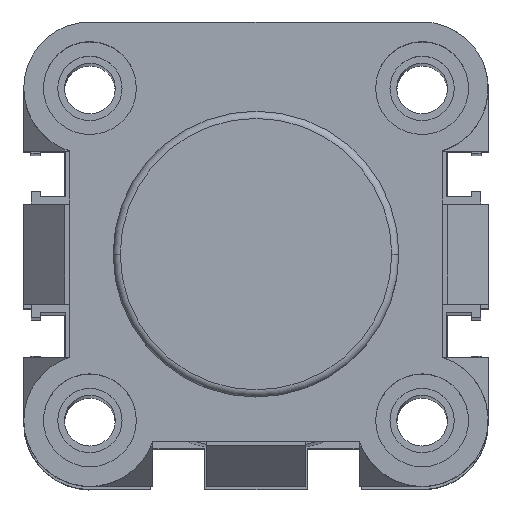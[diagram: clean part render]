
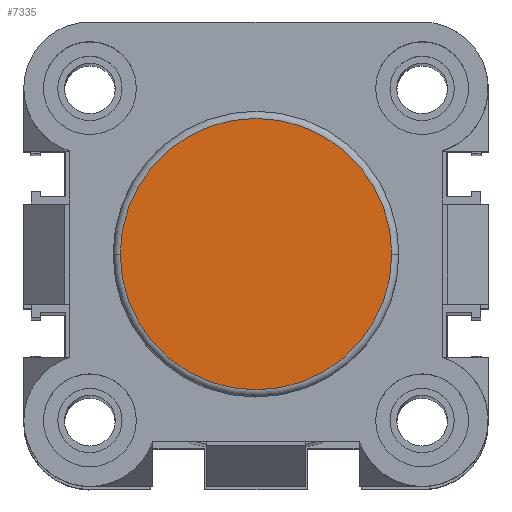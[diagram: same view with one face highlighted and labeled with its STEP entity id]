
A CAD part, top view. The second image highlights one B-rep face of the part: STEP entity #7335.
In plain terms, the highlighted planar face has unit normal (0, 0, 1).
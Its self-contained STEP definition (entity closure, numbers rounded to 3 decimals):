
#345 = EDGE_LOOP ( 'NONE', ( #10595, #8409 ) ) ;
#672 = CIRCLE ( 'NONE', #15863, 19. ) ;
#2330 = FACE_OUTER_BOUND ( 'NONE', #345, .T. ) ;
#3334 = VERTEX_POINT ( 'NONE', #10059 ) ;
#5128 = EDGE_CURVE ( 'NONE', #3334, #14934, #672, .T. ) ;
#5542 = DIRECTION ( 'NONE',  ( 0., 0., 1. ) ) ;
#7335 = ADVANCED_FACE ( 'NONE', ( #2330 ), #11174, .T. ) ;
#8409 = ORIENTED_EDGE ( 'NONE', *, *, #16205, .T. ) ;
#9244 = CARTESIAN_POINT ( 'NONE',  ( 32.5, 32.5, 34. ) ) ;
#9478 = DIRECTION ( 'NONE',  ( 0., 0., 1. ) ) ;
#10059 = CARTESIAN_POINT ( 'NONE',  ( 51.5, 32.5, 34. ) ) ;
#10595 = ORIENTED_EDGE ( 'NONE', *, *, #5128, .T. ) ;
#11174 = PLANE ( 'NONE',  #18925 ) ;
#11546 = CARTESIAN_POINT ( 'NONE',  ( 32.5, 32.5, 34. ) ) ;
#13079 = CARTESIAN_POINT ( 'NONE',  ( 32.5, 32.5, 34. ) ) ;
#14223 = CIRCLE ( 'NONE', #24213, 19. ) ;
#14934 = VERTEX_POINT ( 'NONE', #21374 ) ;
#15863 = AXIS2_PLACEMENT_3D ( 'NONE', #9244, #9478, #20552 ) ;
#16205 = EDGE_CURVE ( 'NONE', #14934, #3334, #14223, .T. ) ;
#17311 = DIRECTION ( 'NONE',  ( 0., 0., 1. ) ) ;
#17473 = DIRECTION ( 'NONE',  ( 1., 0., 0. ) ) ;
#18925 = AXIS2_PLACEMENT_3D ( 'NONE', #13079, #5542, #24499 ) ;
#20552 = DIRECTION ( 'NONE',  ( 1., 0., 0. ) ) ;
#21374 = CARTESIAN_POINT ( 'NONE',  ( 13.5, 32.5, 34. ) ) ;
#24213 = AXIS2_PLACEMENT_3D ( 'NONE', #11546, #17311, #17473 ) ;
#24499 = DIRECTION ( 'NONE',  ( 1., 0., 0. ) ) ;
